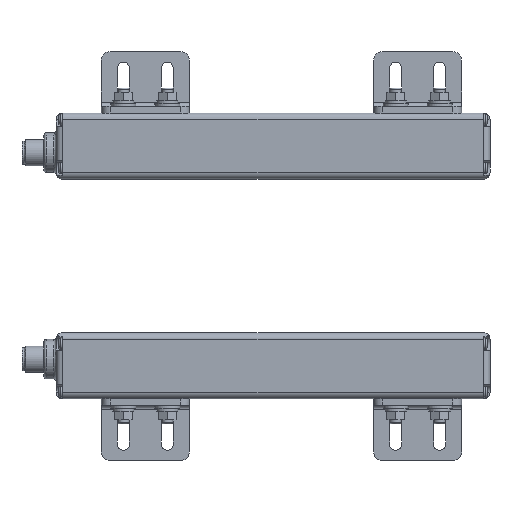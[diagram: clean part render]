
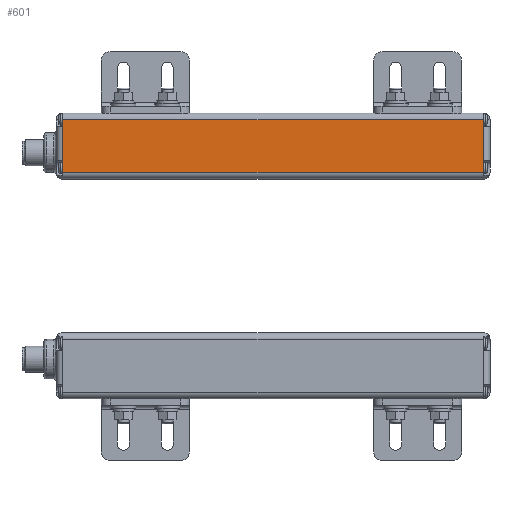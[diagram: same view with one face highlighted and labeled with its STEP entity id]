
A CAD part, top view. The second image highlights one B-rep face of the part: STEP entity #601.
In plain terms, the highlighted planar face has unit normal (0, 0, 1).
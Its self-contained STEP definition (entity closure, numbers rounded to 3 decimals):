
#601 = ADVANCED_FACE( '', ( #2004 ), #2005, .F. );
#2004 = FACE_OUTER_BOUND( '', #3943, .T. );
#2005 = PLANE( '', #3944 );
#3943 = EDGE_LOOP( '', ( #8374, #8375, #8376, #8377, #8378, #8379, #8380, #8381 ) );
#3944 = AXIS2_PLACEMENT_3D( '', #8382, #8383, #8384 );
#8374 = ORIENTED_EDGE( '', *, *, #13017, .F. );
#8375 = ORIENTED_EDGE( '', *, *, #12894, .F. );
#8376 = ORIENTED_EDGE( '', *, *, #13023, .F. );
#8377 = ORIENTED_EDGE( '', *, *, #12977, .F. );
#8378 = ORIENTED_EDGE( '', *, *, #13022, .T. );
#8379 = ORIENTED_EDGE( '', *, *, #13008, .T. );
#8380 = ORIENTED_EDGE( '', *, *, #12964, .T. );
#8381 = ORIENTED_EDGE( '', *, *, #12013, .T. );
#8382 = CARTESIAN_POINT( '', ( 197.5, 12., 14. ) );
#8383 = DIRECTION( '', ( 0., 0., -1. ) );
#8384 = DIRECTION( '', ( -1., 0., 0. ) );
#12013 = EDGE_CURVE( '', #14257, #14280, #14281, .T. );
#12894 = EDGE_CURVE( '', #15754, #15747, #15756, .T. );
#12964 = EDGE_CURVE( '', #14251, #14257, #15862, .T. );
#12977 = EDGE_CURVE( '', #15879, #15765, #15880, .T. );
#13008 = EDGE_CURVE( '', #15927, #14251, #15930, .T. );
#13017 = EDGE_CURVE( '', #15747, #14280, #15941, .T. );
#13022 = EDGE_CURVE( '', #15879, #15927, #15946, .T. );
#13023 = EDGE_CURVE( '', #15765, #15754, #15947, .T. );
#14251 = VERTEX_POINT( '', #18006 );
#14257 = VERTEX_POINT( '', #18014 );
#14280 = VERTEX_POINT( '', #18051 );
#14281 = LINE( '', #18052, #18053 );
#15747 = VERTEX_POINT( '', #20146 );
#15754 = VERTEX_POINT( '', #20154 );
#15756 = LINE( '', #20157, #20158 );
#15765 = VERTEX_POINT( '', #20170 );
#15862 = LINE( '', #20327, #20328 );
#15879 = VERTEX_POINT( '', #20350 );
#15880 = LINE( '', #20351, #20352 );
#15927 = VERTEX_POINT( '', #20412 );
#15930 = LINE( '', #20416, #20417 );
#15941 = LINE( '', #20434, #20435 );
#15946 = LINE( '', #20444, #20445 );
#15947 = LINE( '', #20446, #20447 );
#18006 = CARTESIAN_POINT( '', ( 3., 8.75, 14. ) );
#18014 = CARTESIAN_POINT( '', ( 3., -6.75, 14. ) );
#18051 = CARTESIAN_POINT( '', ( 3., -12., 14. ) );
#18052 = CARTESIAN_POINT( '', ( 3., 197.5, 14. ) );
#18053 = VECTOR( '', #23248, 1000. );
#20146 = CARTESIAN_POINT( '', ( 194.5, -12., 14. ) );
#20154 = CARTESIAN_POINT( '', ( 194.5, -6.75, 14. ) );
#20157 = CARTESIAN_POINT( '', ( 194.5, 197.5, 14. ) );
#20158 = VECTOR( '', #24668, 1000. );
#20170 = CARTESIAN_POINT( '', ( 194.5, 8.75, 14. ) );
#20327 = CARTESIAN_POINT( '', ( 3., 197.5, 14. ) );
#20328 = VECTOR( '', #24778, 1000. );
#20350 = CARTESIAN_POINT( '', ( 194.5, 12., 14. ) );
#20351 = CARTESIAN_POINT( '', ( 194.5, 197.5, 14. ) );
#20352 = VECTOR( '', #24805, 1000. );
#20412 = CARTESIAN_POINT( '', ( 3., 12., 14. ) );
#20416 = CARTESIAN_POINT( '', ( 3., 197.5, 14. ) );
#20417 = VECTOR( '', #24868, 1000. );
#20434 = CARTESIAN_POINT( '', ( 197.5, -12., 14. ) );
#20435 = VECTOR( '', #24881, 1000. );
#20444 = CARTESIAN_POINT( '', ( 197.5, 12., 14. ) );
#20445 = VECTOR( '', #24886, 1000. );
#20446 = CARTESIAN_POINT( '', ( 194.5, 197.5, 14. ) );
#20447 = VECTOR( '', #24887, 1000. );
#23248 = DIRECTION( '', ( 0., -1., 0. ) );
#24668 = DIRECTION( '', ( 0., -1., 0. ) );
#24778 = DIRECTION( '', ( 0., -1., 0. ) );
#24805 = DIRECTION( '', ( 0., -1., 0. ) );
#24868 = DIRECTION( '', ( 0., -1., 0. ) );
#24881 = DIRECTION( '', ( -1., 0., 0. ) );
#24886 = DIRECTION( '', ( -1., 0., 0. ) );
#24887 = DIRECTION( '', ( 0., -1., 0. ) );
